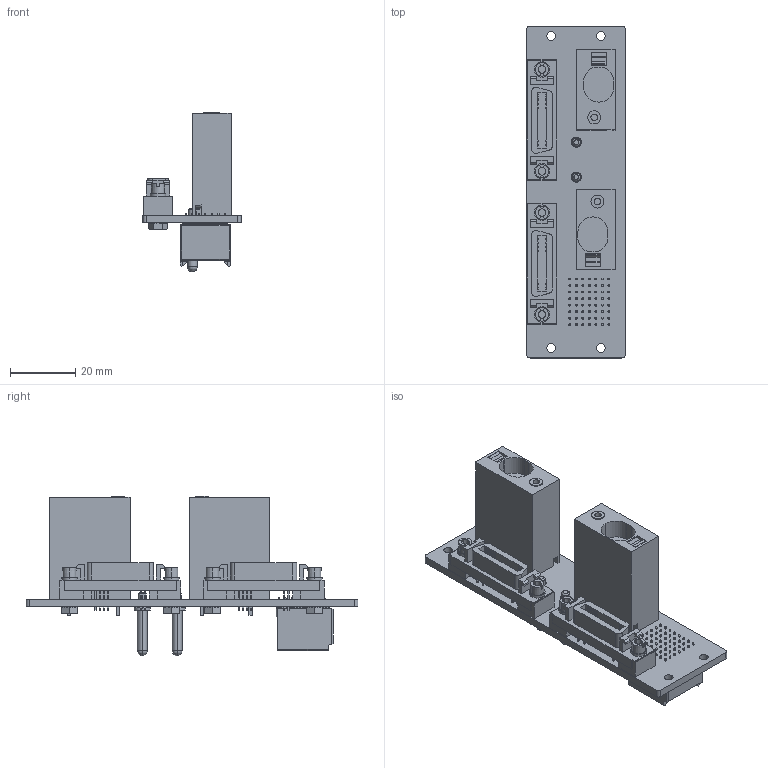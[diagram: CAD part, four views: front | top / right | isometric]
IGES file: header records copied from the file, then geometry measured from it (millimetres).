
Start section:  PTC IGES file: cu_rti-12306.igs
Global section: file name: cu_rti-12306.igs; native system: Creo Parametric by PTC Inc.; preprocessor: 2017480; author: dkendric; organization: Unknown; date: 20180814.100208; units: millimetre
Bounding box: 30.22 x 101.86 x 49 mm (x, y, z)
Surface area: 21795.9 mm2 (no closed solid volume)
Topology: 0 solids, 0 shells, 2748 faces, 14858 edges, 14854 vertices
Faces by surface type: bspline 2409, revolution 339
